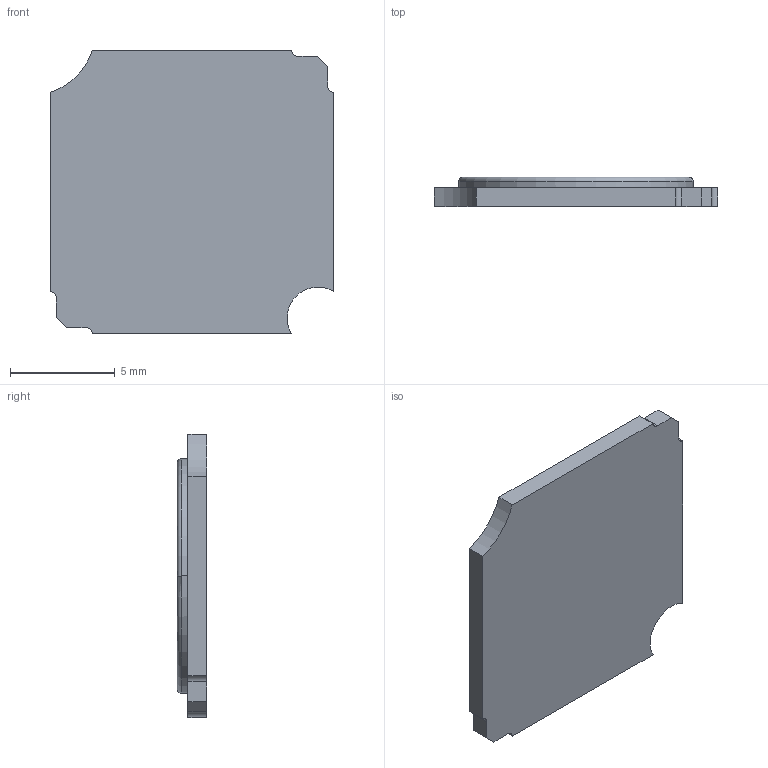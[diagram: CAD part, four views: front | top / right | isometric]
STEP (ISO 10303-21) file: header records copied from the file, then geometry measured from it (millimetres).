
FILE_DESCRIPTION((''),'2;1');
FILE_NAME('3D_LED_MODULES_DIM2WARM1','2021-06-28T11:52:44',('msavic'),(''),'CREO PARAMETRIC BY PTC INC, 2016510','CREO PARAMETRIC BY PTC INC, 2016510','');
FILE_SCHEMA(('AUTOMOTIVE_DESIGN { 1 0 10303 214 1 1 1 1 }'));
Length unit declared in the file: millimetre
Products named in the file (1): 3D_LED_MODULES_DIM2WARM1
Bounding box: 13.5 x 1.4 x 13.5 mm (x, y, z)
Volume: 201.1 mm3; surface area: 410.2 mm2
Topology: 1 solids, 1 shells, 130 faces, 359 edges, 240 vertices
Faces by surface type: plane 116, cylinder 12, torus 2
Entity records: 5254 total; most frequent: CARTESIAN_POINT 740, ORIENTED_EDGE 718, DIRECTION 668, EDGE_CURVE 359, VECTOR 323, LINE 323, VERTEX_POINT 240, AXIS2_PLACEMENT_3D 171
